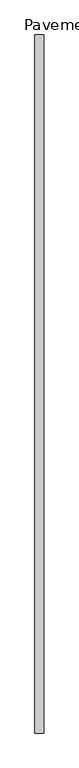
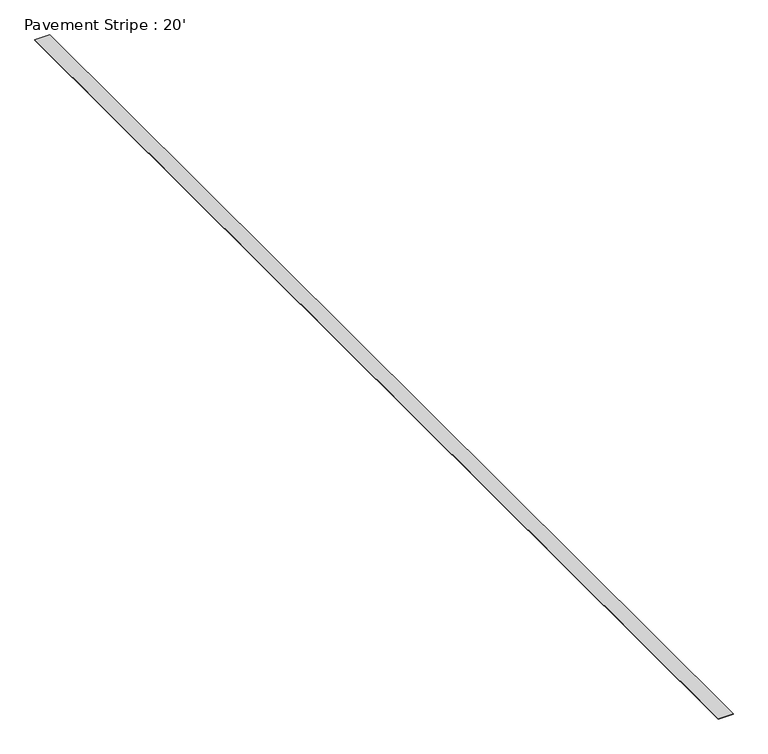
"""IFC4 building model written with IfcOpenShell, lengths in millimetres: geographic element geometry, Pavement Stripe : 20'."""

from ifc_helpers import new_model, si_unit, origin, origin_with_axes, place, context, project, spatial, polyline, outline, extrude, source, transform, mapped, element, save


def pavement_stripe_20_9c478066(model_context):
    return source(origin(), model_context, "Body", "SweptSolid", [
        extrude(outline(polyline([(1303.0620479, 859.2253385), (1303.0620479, -5236.7746615), (1226.8620479, -5236.7746615), (1226.8620479, 859.2253385), (1303.0620479, 859.2253385)])), origin_with_axes(), (0.0, 0.0, 1.0), 1.5875),
    ])


if __name__ == "__main__":
    model = new_model("IFC4")
    model_context = context("Model", 3, world=origin())
    ifc_project = project(units=[si_unit("LENGTHUNIT", "METRE", prefix="MILLI")], contexts=[model_context])
    site = spatial("IfcSite", under=ifc_project)
    building = spatial("IfcBuilding", under=site)
    placement = place(None, origin())
    pavement_stripe_20_shape = pavement_stripe_20_9c478066(model_context)
    element("IfcGeographicElement", 1, ObjectType="Pavement Stripe : 20'", at=placement, inside=building, context=model_context, shape_type="MappedRepresentation", body=[
        mapped(pavement_stripe_20_shape, transform((0.0, 0.0, 0.0), x_axis=(1.0, 0.0, 0.0), y_axis=(0.0, 1.0, 0.0), z_axis=(0.0, 0.0, 1.0))),
    ])
    save(model, "model.ifc")
